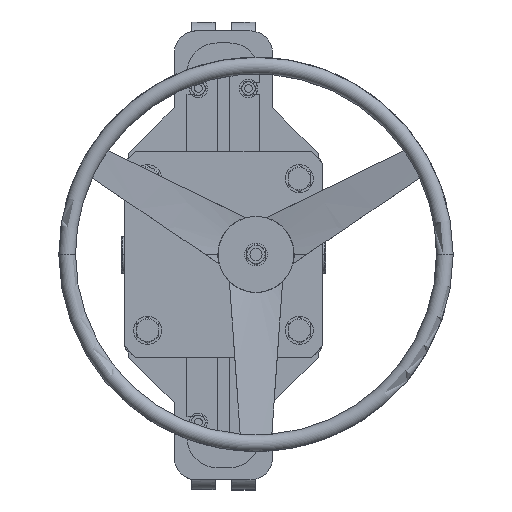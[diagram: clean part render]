
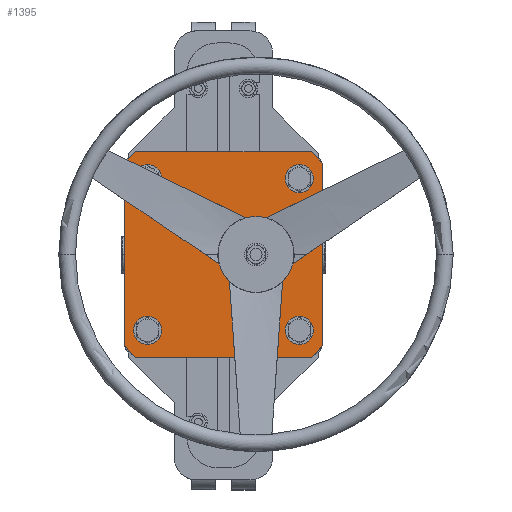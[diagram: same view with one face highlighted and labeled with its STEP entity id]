
A CAD part, top view. The second image highlights one B-rep face of the part: STEP entity #1395.
In plain terms, the highlighted planar face has unit normal (0, 0, 1).
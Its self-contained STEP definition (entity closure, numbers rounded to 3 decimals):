
#1395=ADVANCED_FACE('',(#3743,#3744,#3745,#3746,#3747,#3748),#3749,.T.);
#3743=FACE_BOUND('',#9421,.T.);
#3744=FACE_BOUND('',#9422,.T.);
#3745=FACE_BOUND('',#9423,.T.);
#3746=FACE_BOUND('',#9424,.T.);
#3747=FACE_BOUND('',#9425,.T.);
#3748=FACE_OUTER_BOUND('',#9426,.T.);
#3749=PLANE('',#9427);
#9421=EDGE_LOOP('',(#18044,#18045));
#9422=EDGE_LOOP('',(#18046,#18047));
#9423=EDGE_LOOP('',(#18048,#18049));
#9424=EDGE_LOOP('',(#18050,#18051));
#9425=EDGE_LOOP('',(#18052,#18053));
#9426=EDGE_LOOP('',(#18054,#18055,#18056,#18057,#18058,#18059,#18060,#18061));
#9427=AXIS2_PLACEMENT_3D('',#18062,#18063,#18064);
#18044=ORIENTED_EDGE('',*,*,#20497,.T.);
#18045=ORIENTED_EDGE('',*,*,#22911,.T.);
#18046=ORIENTED_EDGE('',*,*,#21039,.T.);
#18047=ORIENTED_EDGE('',*,*,#21646,.T.);
#18048=ORIENTED_EDGE('',*,*,#20517,.T.);
#18049=ORIENTED_EDGE('',*,*,#22839,.T.);
#18050=ORIENTED_EDGE('',*,*,#21019,.T.);
#18051=ORIENTED_EDGE('',*,*,#21730,.T.);
#18052=ORIENTED_EDGE('',*,*,#20619,.T.);
#18053=ORIENTED_EDGE('',*,*,#22699,.T.);
#18054=ORIENTED_EDGE('',*,*,#22706,.F.);
#18055=ORIENTED_EDGE('',*,*,#22712,.F.);
#18056=ORIENTED_EDGE('',*,*,#22720,.F.);
#18057=ORIENTED_EDGE('',*,*,#22717,.F.);
#18058=ORIENTED_EDGE('',*,*,#22713,.F.);
#18059=ORIENTED_EDGE('',*,*,#22727,.F.);
#18060=ORIENTED_EDGE('',*,*,#22722,.F.);
#18061=ORIENTED_EDGE('',*,*,#22728,.F.);
#18062=CARTESIAN_POINT('',(0.,0.,1132.5));
#18063=DIRECTION('',(0.,0.,1.));
#18064=DIRECTION('',(0.,1.,0.));
#20497=EDGE_CURVE('',#24251,#24255,#24257,.T.);
#20517=EDGE_CURVE('',#24291,#24295,#24297,.T.);
#20619=EDGE_CURVE('',#24485,#24489,#24491,.T.);
#21019=EDGE_CURVE('',#25266,#25270,#25272,.T.);
#21039=EDGE_CURVE('',#25306,#25310,#25312,.T.);
#21646=EDGE_CURVE('',#25310,#25306,#26321,.T.);
#21730=EDGE_CURVE('',#25270,#25266,#26447,.T.);
#22699=EDGE_CURVE('',#24489,#24485,#27906,.T.);
#22706=EDGE_CURVE('',#27913,#27914,#27915,.T.);
#22712=EDGE_CURVE('',#27923,#27913,#27925,.T.);
#22713=EDGE_CURVE('',#27926,#27927,#27928,.T.);
#22717=EDGE_CURVE('',#27927,#27934,#27935,.T.);
#22720=EDGE_CURVE('',#27934,#27923,#27939,.T.);
#22722=EDGE_CURVE('',#27941,#27942,#27943,.T.);
#22727=EDGE_CURVE('',#27942,#27926,#27950,.T.);
#22728=EDGE_CURVE('',#27914,#27941,#27951,.T.);
#22839=EDGE_CURVE('',#24295,#24291,#28114,.T.);
#22911=EDGE_CURVE('',#24255,#24251,#28222,.T.);
#24251=VERTEX_POINT('',#29550);
#24255=VERTEX_POINT('',#29555);
#24257=CIRCLE('',#29558,18.5);
#24291=VERTEX_POINT('',#29600);
#24295=VERTEX_POINT('',#29605);
#24297=CIRCLE('',#29608,18.5);
#24485=VERTEX_POINT('',#29952);
#24489=VERTEX_POINT('',#29957);
#24491=CIRCLE('',#29960,32.);
#25266=VERTEX_POINT('',#31251);
#25270=VERTEX_POINT('',#31256);
#25272=CIRCLE('',#31259,18.5);
#25306=VERTEX_POINT('',#31301);
#25310=VERTEX_POINT('',#31306);
#25312=CIRCLE('',#31309,18.5);
#26321=CIRCLE('',#33248,18.5);
#26447=CIRCLE('',#33788,18.5);
#27906=CIRCLE('',#37551,32.);
#27913=VERTEX_POINT('',#37558);
#27914=VERTEX_POINT('',#37559);
#27915=LINE('',#37560,#37561);
#27923=VERTEX_POINT('',#37573);
#27925=LINE('',#37576,#37577);
#27926=VERTEX_POINT('',#37578);
#27927=VERTEX_POINT('',#37579);
#27928=LINE('',#37580,#37581);
#27934=VERTEX_POINT('',#37590);
#27935=LINE('',#37591,#37592);
#27939=LINE('',#37598,#37599);
#27941=VERTEX_POINT('',#37602);
#27942=VERTEX_POINT('',#37603);
#27943=LINE('',#37604,#37605);
#27950=LINE('',#37616,#37617);
#27951=LINE('',#37618,#37619);
#28114=CIRCLE('',#38287,18.5);
#28222=CIRCLE('',#38803,18.5);
#29550=CARTESIAN_POINT('',(118.501,100.001,1132.5));
#29555=CARTESIAN_POINT('',(81.501,100.001,1132.5));
#29558=AXIS2_PLACEMENT_3D('',#42923,#42924,#42925);
#29600=CARTESIAN_POINT('',(-81.499,100.001,1132.5));
#29605=CARTESIAN_POINT('',(-118.499,100.001,1132.5));
#29608=AXIS2_PLACEMENT_3D('',#42963,#42964,#42965);
#29952=CARTESIAN_POINT('',(75.,0.,1132.5));
#29957=CARTESIAN_POINT('',(11.,0.,1132.5));
#29960=AXIS2_PLACEMENT_3D('',#43145,#43146,#43147);
#31251=CARTESIAN_POINT('',(-81.499,-99.999,1132.5));
#31256=CARTESIAN_POINT('',(-118.499,-99.999,1132.5));
#31259=AXIS2_PLACEMENT_3D('',#43889,#43890,#43891);
#31301=CARTESIAN_POINT('',(118.501,-99.999,1132.5));
#31306=CARTESIAN_POINT('',(81.501,-99.999,1132.5));
#31309=AXIS2_PLACEMENT_3D('',#43929,#43930,#43931);
#33248=AXIS2_PLACEMENT_3D('',#45030,#45031,#45032);
#33788=AXIS2_PLACEMENT_3D('',#45138,#45139,#45140);
#37551=AXIS2_PLACEMENT_3D('',#46637,#46638,#46639);
#37558=CARTESIAN_POINT('',(-116.,-135.5,1132.5));
#37559=CARTESIAN_POINT('',(-131.,-120.5,1132.5));
#37560=CARTESIAN_POINT('',(-124.625,-126.875,1132.5));
#37561=VECTOR('',#46658,10.);
#37573=CARTESIAN_POINT('',(116.,-135.5,1132.5));
#37576=CARTESIAN_POINT('',(-131.,-135.5,1132.5));
#37577=VECTOR('',#46664,10.);
#37578=CARTESIAN_POINT('',(116.,135.5,1132.5));
#37579=CARTESIAN_POINT('',(131.,120.5,1132.5));
#37580=CARTESIAN_POINT('',(124.625,126.875,1132.5));
#37581=VECTOR('',#46665,10.);
#37590=CARTESIAN_POINT('',(131.,-120.5,1132.5));
#37591=CARTESIAN_POINT('',(131.,-135.5,1132.5));
#37592=VECTOR('',#46669,10.);
#37598=CARTESIAN_POINT('',(124.625,-126.875,1132.5));
#37599=VECTOR('',#46672,10.);
#37602=CARTESIAN_POINT('',(-131.,120.5,1132.5));
#37603=CARTESIAN_POINT('',(-116.,135.5,1132.5));
#37604=CARTESIAN_POINT('',(-124.625,126.875,1132.5));
#37605=VECTOR('',#46674,10.);
#37616=CARTESIAN_POINT('',(131.,135.5,1132.5));
#37617=VECTOR('',#46679,10.);
#37618=CARTESIAN_POINT('',(-131.,135.5,1132.5));
#37619=VECTOR('',#46680,10.);
#38287=AXIS2_PLACEMENT_3D('',#46811,#46812,#46813);
#38803=AXIS2_PLACEMENT_3D('',#46895,#46896,#46897);
#42923=CARTESIAN_POINT('',(100.001,100.001,1132.5));
#42924=DIRECTION('',(0.,0.,-1.));
#42925=DIRECTION('',(1.,0.,0.));
#42963=CARTESIAN_POINT('',(-99.999,100.001,1132.5));
#42964=DIRECTION('',(0.,0.,-1.));
#42965=DIRECTION('',(1.,0.,0.));
#43145=CARTESIAN_POINT('',(43.,0.,1132.5));
#43146=DIRECTION('',(0.,0.,-1.));
#43147=DIRECTION('',(1.,0.,0.));
#43889=CARTESIAN_POINT('',(-99.999,-99.999,1132.5));
#43890=DIRECTION('',(0.,0.,-1.));
#43891=DIRECTION('',(1.,0.,0.));
#43929=CARTESIAN_POINT('',(100.001,-99.999,1132.5));
#43930=DIRECTION('',(0.,0.,-1.));
#43931=DIRECTION('',(1.,0.,0.));
#45030=CARTESIAN_POINT('',(100.001,-99.999,1132.5));
#45031=DIRECTION('',(0.,0.,-1.));
#45032=DIRECTION('',(1.,0.,0.));
#45138=CARTESIAN_POINT('',(-99.999,-99.999,1132.5));
#45139=DIRECTION('',(0.,0.,-1.));
#45140=DIRECTION('',(1.,0.,0.));
#46637=CARTESIAN_POINT('',(43.,0.,1132.5));
#46638=DIRECTION('',(0.,0.,-1.));
#46639=DIRECTION('',(1.,0.,0.));
#46658=DIRECTION('',(-0.707,0.707,0.));
#46664=DIRECTION('',(-1.,0.,0.));
#46665=DIRECTION('',(0.707,-0.707,0.));
#46669=DIRECTION('',(0.,-1.,0.));
#46672=DIRECTION('',(-0.707,-0.707,0.));
#46674=DIRECTION('',(0.707,0.707,0.));
#46679=DIRECTION('',(1.,0.,0.));
#46680=DIRECTION('',(0.,1.,0.));
#46811=CARTESIAN_POINT('',(-99.999,100.001,1132.5));
#46812=DIRECTION('',(0.,0.,-1.));
#46813=DIRECTION('',(1.,0.,0.));
#46895=CARTESIAN_POINT('',(100.001,100.001,1132.5));
#46896=DIRECTION('',(0.,0.,-1.));
#46897=DIRECTION('',(1.,0.,0.));
